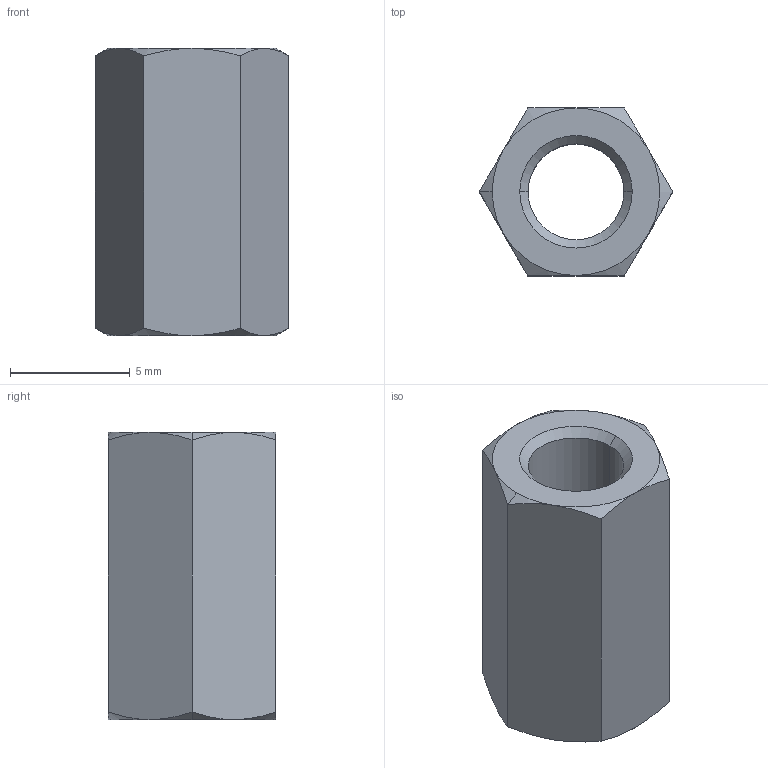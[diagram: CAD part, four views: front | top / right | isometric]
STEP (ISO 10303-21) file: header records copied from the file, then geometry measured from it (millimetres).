
FILE_DESCRIPTION (( 'STEP AP203' ), '1' );
FILE_NAME ('N0503.040-012-NP.step', '2025-02-27T14:42:31', ( '' ), ( '' ), 'SwSTEP 2.0', 'SolidWorks 2019', '' );
FILE_SCHEMA (( 'CONFIG_CONTROL_DESIGN' ));
Length unit declared in the file: millimetre
Products named in the file (1): N0503.040-012-NP
Bounding box: 8.08 x 7 x 12 mm (x, y, z)
Volume: 356.1 mm3; surface area: 492.7 mm2
Topology: 1 solids, 1 shells, 28 faces, 60 edges, 34 vertices
Faces by surface type: cone 18, plane 8, cylinder 2
Entity records: 875 total; most frequent: CARTESIAN_POINT 223, ORIENTED_EDGE 120, DIRECTION 116, EDGE_CURVE 60, AXIS2_PLACEMENT_3D 51, VERTEX_POINT 34, EDGE_LOOP 30, FACE_OUTER_BOUND 28
